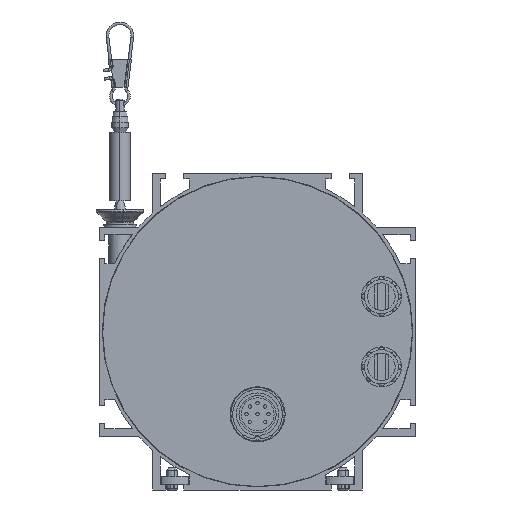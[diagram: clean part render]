
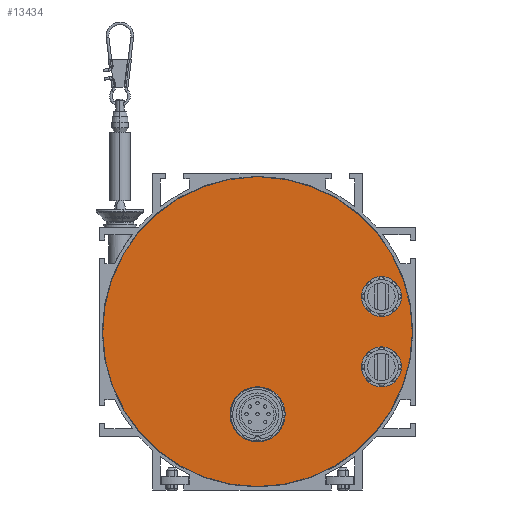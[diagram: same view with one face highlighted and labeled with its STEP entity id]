
A CAD part, left-side view. The second image highlights one B-rep face of the part: STEP entity #13434.
In plain terms, the highlighted planar face has unit normal (-1, 0, 0).
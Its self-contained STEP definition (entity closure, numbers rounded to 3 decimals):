
#3774=CARTESIAN_POINT('',(0.,0.,0.));
#3775=DIRECTION('',(-1.,0.,0.));
#3776=DIRECTION('',(0.,0.019,1.));
#3777=AXIS2_PLACEMENT_3D('',#3774,#3775,#3776);
#3787=DIRECTION('',(0.,1.,0.));
#3788=VECTOR('',#3787,2.121);
#3789=CARTESIAN_POINT('',(0.,-1.061,56.24));
#3790=LINE('',#3789,#3788);
#3791=CARTESIAN_POINT('',(0.,0.,-30.));
#3792=DIRECTION('',(-1.,0.,0.));
#3793=DIRECTION('',(0.,1.,0.));
#3794=AXIS2_PLACEMENT_3D('',#3791,#3792,#3793);
#3796=CARTESIAN_POINT('',(0.,0.,-30.));
#3797=DIRECTION('',(-1.,0.,0.));
#3798=DIRECTION('',(0.,-1.,0.));
#3799=AXIS2_PLACEMENT_3D('',#3796,#3797,#3798);
#3801=CARTESIAN_POINT('',(0.,-45.,-12.75));
#3802=DIRECTION('',(1.,0.,0.));
#3803=DIRECTION('',(0.,1.,0.));
#3804=AXIS2_PLACEMENT_3D('',#3801,#3802,#3803);
#3806=CARTESIAN_POINT('',(0.,-45.,-12.75));
#3807=DIRECTION('',(1.,0.,0.));
#3808=DIRECTION('',(0.,-1.,0.));
#3809=AXIS2_PLACEMENT_3D('',#3806,#3807,#3808);
#3811=CARTESIAN_POINT('',(0.,-45.,12.75));
#3812=DIRECTION('',(1.,0.,0.));
#3813=DIRECTION('',(0.,1.,0.));
#3814=AXIS2_PLACEMENT_3D('',#3811,#3812,#3813);
#3816=CARTESIAN_POINT('',(0.,-45.,12.75));
#3817=DIRECTION('',(1.,0.,0.));
#3818=DIRECTION('',(0.,-1.,0.));
#3819=AXIS2_PLACEMENT_3D('',#3816,#3817,#3818);
#6447=CARTESIAN_POINT('',(0.,-1.061,56.24));
#6448=CARTESIAN_POINT('',(0.,1.061,56.24));
#6449=VERTEX_POINT('',#6447);
#6450=VERTEX_POINT('',#6448);
#6538=CARTESIAN_POINT('',(0.,10.,-30.));
#6539=CARTESIAN_POINT('',(0.,-10.,-30.));
#6540=VERTEX_POINT('',#6538);
#6541=VERTEX_POINT('',#6539);
#7304=CARTESIAN_POINT('',(0.,-37.75,-12.75));
#7305=CARTESIAN_POINT('',(0.,-52.25,-12.75));
#7306=VERTEX_POINT('',#7304);
#7307=VERTEX_POINT('',#7305);
#7982=CARTESIAN_POINT('',(0.,-37.75,12.75));
#7983=CARTESIAN_POINT('',(0.,-52.25,12.75));
#7984=VERTEX_POINT('',#7982);
#7985=VERTEX_POINT('',#7983);
#13407=CARTESIAN_POINT('',(0.,0.,0.));
#13408=DIRECTION('',(1.,0.,0.));
#13409=DIRECTION('',(0.,1.,0.));
#13410=AXIS2_PLACEMENT_3D('',#13407,#13408,#13409);
#13411=PLANE('',#13410);
#13412=ORIENTED_EDGE('',*,*,#13387,.F.);
#13413=ORIENTED_EDGE('',*,*,#13401,.F.);
#13414=EDGE_LOOP('',(#13412,#13413));
#13415=FACE_OUTER_BOUND('',#13414,.F.);
#13417=ORIENTED_EDGE('',*,*,#13416,.T.);
#13419=ORIENTED_EDGE('',*,*,#13418,.T.);
#13420=EDGE_LOOP('',(#13417,#13419));
#13421=FACE_BOUND('',#13420,.F.);
#13423=ORIENTED_EDGE('',*,*,#13422,.F.);
#13425=ORIENTED_EDGE('',*,*,#13424,.F.);
#13426=EDGE_LOOP('',(#13423,#13425));
#13427=FACE_BOUND('',#13426,.F.);
#13429=ORIENTED_EDGE('',*,*,#13428,.F.);
#13431=ORIENTED_EDGE('',*,*,#13430,.F.);
#13432=EDGE_LOOP('',(#13429,#13431));
#13433=FACE_BOUND('',#13432,.F.);
#13434=ADVANCED_FACE('',(#13415,#13421,#13427,#13433),#13411,.F.);
#3778=CIRCLE('',#3777,56.25);
#3795=CIRCLE('',#3794,10.);
#3800=CIRCLE('',#3799,10.);
#3805=CIRCLE('',#3804,7.25);
#3810=CIRCLE('',#3809,7.25);
#3815=CIRCLE('',#3814,7.25);
#3820=CIRCLE('',#3819,7.25);
#13387=EDGE_CURVE('',#6450,#6449,#3778,.T.);
#13401=EDGE_CURVE('',#6449,#6450,#3790,.T.);
#13416=EDGE_CURVE('',#6540,#6541,#3795,.T.);
#13418=EDGE_CURVE('',#6541,#6540,#3800,.T.);
#13422=EDGE_CURVE('',#7306,#7307,#3805,.T.);
#13424=EDGE_CURVE('',#7307,#7306,#3810,.T.);
#13428=EDGE_CURVE('',#7984,#7985,#3815,.T.);
#13430=EDGE_CURVE('',#7985,#7984,#3820,.T.);
